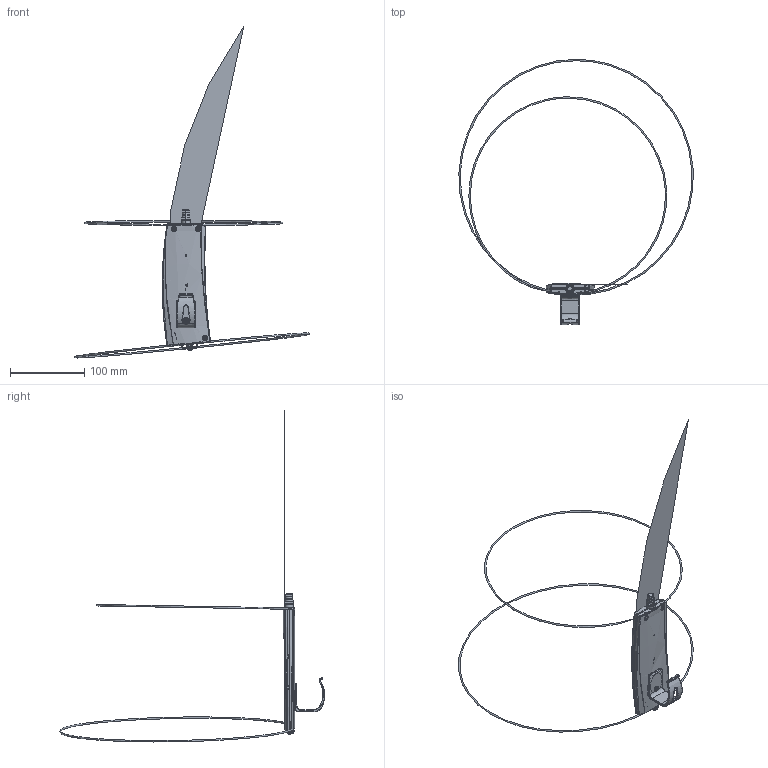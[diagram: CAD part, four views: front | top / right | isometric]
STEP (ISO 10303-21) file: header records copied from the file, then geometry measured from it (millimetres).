
FILE_DESCRIPTION((''),'2;1');
FILE_NAME('HTF_ASM','2014-06-03T',('user'),(''),'PRO/ENGINEER BY PARAMETRIC TECHNOLOGY CORPORATION, 2008090','PRO/ENGINEER BY PARAMETRIC TECHNOLOGY CORPORATION, 2008090','');
FILE_SCHEMA(('CONFIG_CONTROL_DESIGN'));
Products named in the file (1): HTF_ASM
Bounding box: 316.21 x 358.45 x 448.15 mm (x, y, z)
Surface area: 58854.6 mm2 (no closed solid volume)
Topology: 0 solids, 0 shells, 1278 faces, 6949 edges, 6823 vertices
Faces by surface type: bspline 1081, torus 137, sphere 60
Entity records: 113688 total; most frequent: CARTESIAN_POINT 55377, DIRECTION 9050, TRIMMED_CURVE 7364, DEFINITIONAL_REPRESENTATION 6756, PCURVE 6756, COMPOSITE_CURVE_SEGMENT 6756, VECTOR 6072, LINE 6072
